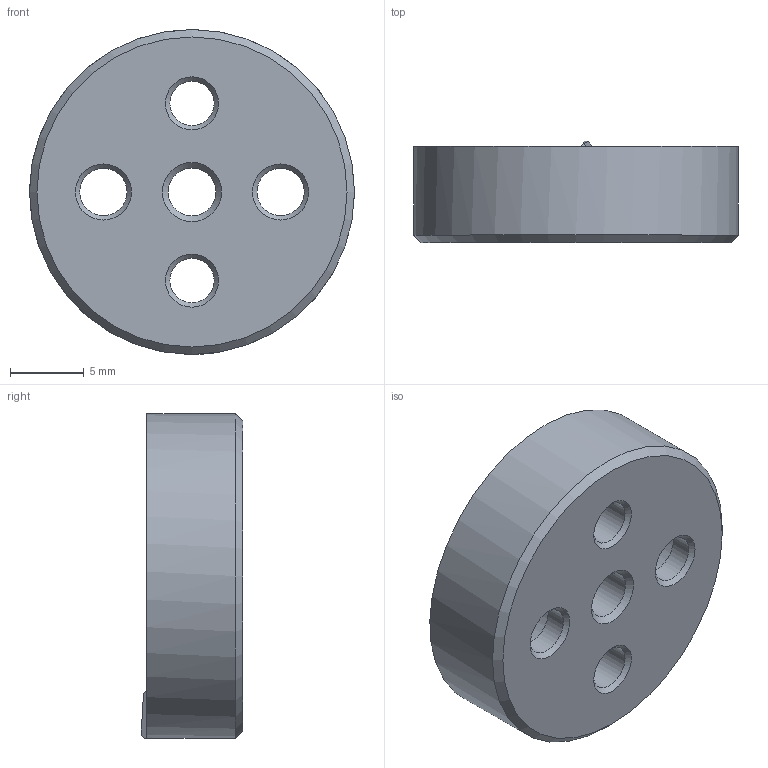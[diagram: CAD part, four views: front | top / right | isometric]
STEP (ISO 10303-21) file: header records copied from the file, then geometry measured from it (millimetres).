
FILE_DESCRIPTION( ( 'STEP AP203' ), '1' );
FILE_NAME( 'C:/Temp/Ganter_Step_05_03_2020/data/3_2/gn187_4/gn187_4_st/Serrated locking plate GN 187.4-22-48-A-ST.stp', '2020-03-13T05:25:30', ( 'License CC BY-ND 4.0' ), ( 'CADENAS' ), ' ', 'PARTsolutions', ' ' );
FILE_SCHEMA( ( 'CONFIG_CONTROL_DESIGN' ) );
Length unit declared in the file: millimetre
Products named in the file (1): _Serrated locking plate GN 187.4-22-48-A-ST
Bounding box: 22 x 6.89 x 22 mm (x, y, z)
Volume: 1896.5 mm3; surface area: 1492.2 mm2
Topology: 1 solids, 1 shells, 33 faces, 85 edges, 54 vertices
Faces by surface type: cone 12, cylinder 12, plane 9
Full cylindrical faces by diameter (mm): 3 x2, 3.2 x2, 3.242 x1, 6 x2, 22 x1
Entity records: 1044 total; most frequent: CARTESIAN_POINT 250, DIRECTION 166, ORIENTED_EDGE 128, AXIS2_PLACEMENT_3D 78, EDGE_CURVE 64, EDGE_LOOP 60, VERTEX_POINT 50, FACE_OUTER_BOUND 41
